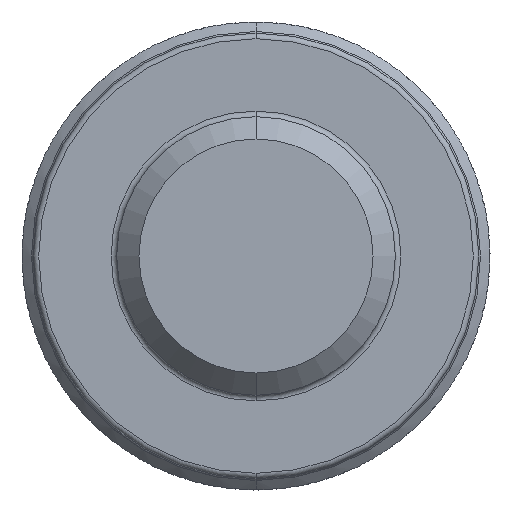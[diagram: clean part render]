
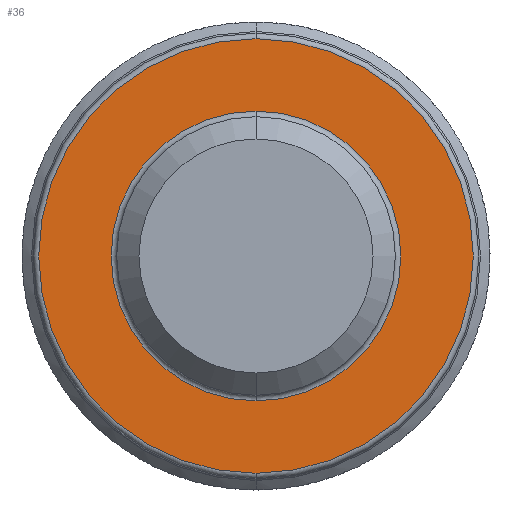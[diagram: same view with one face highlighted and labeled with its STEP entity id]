
A CAD part, front view. The second image highlights one B-rep face of the part: STEP entity #36.
In plain terms, the highlighted planar face has unit normal (0, -1, 0).
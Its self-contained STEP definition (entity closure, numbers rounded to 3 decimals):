
#9 = CARTESIAN_POINT ( 'NONE',  ( 0., -5., -2.6 ) ) ;
#36 = ADVANCED_FACE ( 'NONE', ( #6641, #3489 ), #2188, .T. ) ;
#82 = CIRCLE ( 'NONE', #2531, 3.9 ) ;
#254 = VERTEX_POINT ( 'NONE', #255 ) ;
#255 = CARTESIAN_POINT ( 'NONE',  ( 0., -5., 2.6 ) ) ;
#375 = EDGE_LOOP ( 'NONE', ( #836, #1938 ) ) ;
#415 = DIRECTION ( 'NONE',  ( 0., -1., 0. ) ) ;
#836 = ORIENTED_EDGE ( 'NONE', *, *, #5731, .T. ) ;
#1227 = CARTESIAN_POINT ( 'NONE',  ( 0., -5., 0. ) ) ;
#1274 = DIRECTION ( 'NONE',  ( 0., 0., -1. ) ) ;
#1541 = EDGE_CURVE ( 'NONE', #2677, #1723, #6693, .T. ) ;
#1543 = AXIS2_PLACEMENT_3D ( 'NONE', #7417, #8096, #4176 ) ;
#1587 = CIRCLE ( 'NONE', #4026, 2.6 ) ;
#1723 = VERTEX_POINT ( 'NONE', #6817 ) ;
#1912 = DIRECTION ( 'NONE',  ( 0., -1., 0. ) ) ;
#1938 = ORIENTED_EDGE ( 'NONE', *, *, #3901, .T. ) ;
#2188 = PLANE ( 'NONE',  #8064 ) ;
#2531 = AXIS2_PLACEMENT_3D ( 'NONE', #4262, #415, #2991 ) ;
#2667 = EDGE_CURVE ( 'NONE', #1723, #2677, #82, .T. ) ;
#2677 = VERTEX_POINT ( 'NONE', #8018 ) ;
#2991 = DIRECTION ( 'NONE',  ( 0., 0., -1. ) ) ;
#3122 = ORIENTED_EDGE ( 'NONE', *, *, #1541, .T. ) ;
#3489 = FACE_OUTER_BOUND ( 'NONE', #5411, .T. ) ;
#3901 = EDGE_CURVE ( 'NONE', #254, #7675, #1587, .T. ) ;
#4026 = AXIS2_PLACEMENT_3D ( 'NONE', #5408, #4151, #6150 ) ;
#4148 = AXIS2_PLACEMENT_3D ( 'NONE', #1227, #1912, #1274 ) ;
#4151 = DIRECTION ( 'NONE',  ( 0., 1., 0. ) ) ;
#4176 = DIRECTION ( 'NONE',  ( 0., 0., -1. ) ) ;
#4262 = CARTESIAN_POINT ( 'NONE',  ( 0., -5., 0. ) ) ;
#4517 = CIRCLE ( 'NONE', #1543, 2.6 ) ;
#4749 = DIRECTION ( 'NONE',  ( 0., 0., -1. ) ) ;
#5384 = CARTESIAN_POINT ( 'NONE',  ( 2.5, -5., 0. ) ) ;
#5408 = CARTESIAN_POINT ( 'NONE',  ( 0., -5., 0. ) ) ;
#5411 = EDGE_LOOP ( 'NONE', ( #7290, #3122 ) ) ;
#5731 = EDGE_CURVE ( 'NONE', #7675, #254, #4517, .T. ) ;
#6150 = DIRECTION ( 'NONE',  ( 0., 0., -1. ) ) ;
#6641 = FACE_BOUND ( 'NONE', #375, .T. ) ;
#6693 = CIRCLE ( 'NONE', #4148, 3.9 ) ;
#6817 = CARTESIAN_POINT ( 'NONE',  ( 0., -5., -3.9 ) ) ;
#7290 = ORIENTED_EDGE ( 'NONE', *, *, #2667, .T. ) ;
#7417 = CARTESIAN_POINT ( 'NONE',  ( 0., -5., 0. ) ) ;
#7675 = VERTEX_POINT ( 'NONE', #9 ) ;
#7958 = DIRECTION ( 'NONE',  ( 0., -1., 0. ) ) ;
#8018 = CARTESIAN_POINT ( 'NONE',  ( 0., -5., 3.9 ) ) ;
#8064 = AXIS2_PLACEMENT_3D ( 'NONE', #5384, #7958, #4749 ) ;
#8096 = DIRECTION ( 'NONE',  ( 0., 1., 0. ) ) ;
